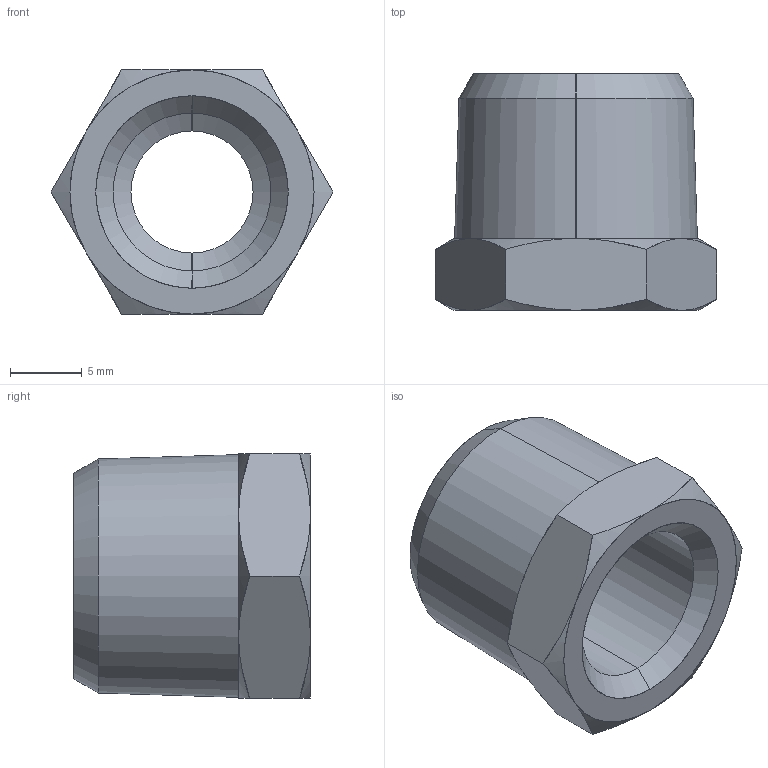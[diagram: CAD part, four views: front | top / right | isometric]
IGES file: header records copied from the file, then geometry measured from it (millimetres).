
Start section: SolidWorks IGES file using analytic representation for surfaces
Global section: file name: K:\Disegni Esecutivi\Accessori\2080\020800001AA00.IGS; native system: SolidWorks 2007; preprocessor: SolidWorks 2007; author: cad02; date: 071019.091603; units: millimetre
Bounding box: 19.63 x 16.5 x 17 mm (x, y, z)
Surface area: 1699.5 mm2 (no closed solid volume)
Topology: 0 solids, 0 shells, 35 faces, 476 edges, 476 vertices
Faces by surface type: revolution 26, bspline 9
